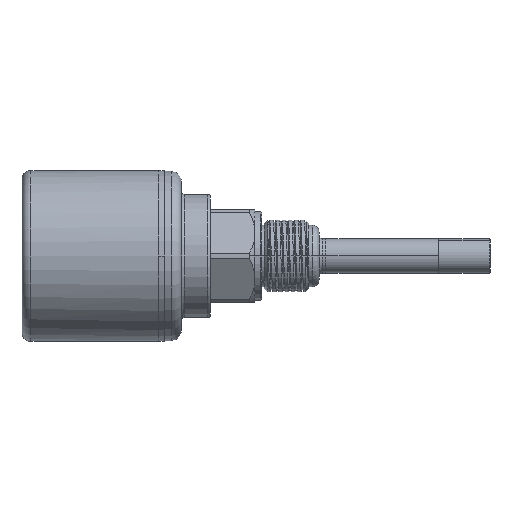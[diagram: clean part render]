
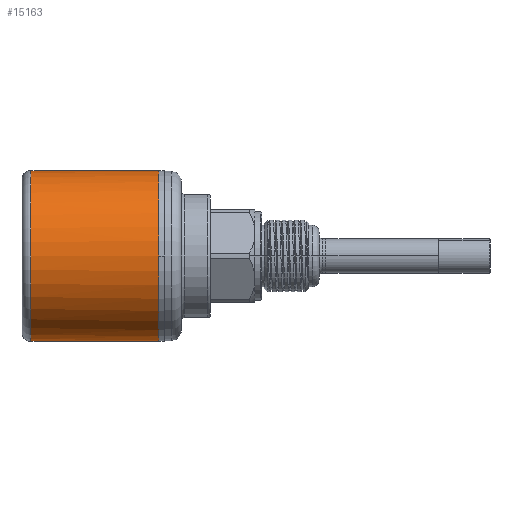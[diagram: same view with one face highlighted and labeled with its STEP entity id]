
A CAD part, left-side view. The second image highlights one B-rep face of the part: STEP entity #15163.
In plain terms, the highlighted cylindrical face has radius 25 mm (diameter 50 mm), a partial arc.
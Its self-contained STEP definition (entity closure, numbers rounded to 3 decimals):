
#451 = LINE ( 'NONE', #10585, #6543 ) ;
#532 = CARTESIAN_POINT ( 'NONE',  ( -1.108, 37.652, 24.982 ) ) ;
#579 = ORIENTED_EDGE ( 'NONE', *, *, #1323, .T. ) ;
#803 = CARTESIAN_POINT ( 'NONE',  ( -1.661, 38., -24.945 ) ) ;
#1323 = EDGE_CURVE ( 'NONE', #11858, #3930, #19573, .T. ) ;
#1630 = CARTESIAN_POINT ( 'NONE',  ( 0., 28., -25. ) ) ;
#2126 = DIRECTION ( 'NONE',  ( 0., 0., 1. ) ) ;
#2214 = CARTESIAN_POINT ( 'NONE',  ( 0., 36.953, 25. ) ) ;
#2394 = CARTESIAN_POINT ( 'NONE',  ( -1.661, 38., -24.945 ) ) ;
#2628 = DIRECTION ( 'NONE',  ( 0., 0., -1. ) ) ;
#2714 = CARTESIAN_POINT ( 'NONE',  ( 0., 36.953, -25. ) ) ;
#2900 = CARTESIAN_POINT ( 'NONE',  ( 0., 38., 0. ) ) ;
#3609 = DIRECTION ( 'NONE',  ( 0., -1., 0. ) ) ;
#3930 = VERTEX_POINT ( 'NONE', #2394 ) ;
#4321 = EDGE_CURVE ( 'NONE', #21162, #11075, #451, .T. ) ;
#5447 = CYLINDRICAL_SURFACE ( 'NONE', #15800, 25. ) ;
#5546 = CARTESIAN_POINT ( 'NONE',  ( 0., 0.5, -25. ) ) ;
#6543 = VECTOR ( 'NONE', #3609, 1000. ) ;
#6779 = CARTESIAN_POINT ( 'NONE',  ( 0., 36.953, -25. ) ) ;
#7345 = DIRECTION ( 'NONE',  ( 0., -1., 0. ) ) ;
#7404 = DIRECTION ( 'NONE',  ( 0., -1., 0. ) ) ;
#8148 = EDGE_CURVE ( 'NONE', #11075, #10023, #18150, .T. ) ;
#8165 = LINE ( 'NONE', #1630, #17235 ) ;
#9105 = ORIENTED_EDGE ( 'NONE', *, *, #17397, .T. ) ;
#9548 = DIRECTION ( 'NONE',  ( 0., 0., 1. ) ) ;
#10023 = VERTEX_POINT ( 'NONE', #5546 ) ;
#10246 = ORIENTED_EDGE ( 'NONE', *, *, #8148, .F. ) ;
#10585 = CARTESIAN_POINT ( 'NONE',  ( 0., 28., 25. ) ) ;
#11075 = VERTEX_POINT ( 'NONE', #19238 ) ;
#11858 = VERTEX_POINT ( 'NONE', #20994 ) ;
#12166 =( BOUNDED_CURVE ( )  B_SPLINE_CURVE ( 3, ( #2214, #19973, #532, #18162 ),
 .UNSPECIFIED., .F., .F. ) 
 B_SPLINE_CURVE_WITH_KNOTS ( ( 4, 4 ),
 ( 1.571, 1.637 ),
 .UNSPECIFIED. ) 
 CURVE ( )  GEOMETRIC_REPRESENTATION_ITEM ( )  RATIONAL_B_SPLINE_CURVE ( ( 1., 1., 1., 1. ) ) 
 REPRESENTATION_ITEM ( '' )  );
#12176 = VERTEX_POINT ( 'NONE', #6779 ) ;
#12781 = ORIENTED_EDGE ( 'NONE', *, *, #16661, .T. ) ;
#13118 = DIRECTION ( 'NONE',  ( 0., -1., 0. ) ) ;
#13623 = ORIENTED_EDGE ( 'NONE', *, *, #15049, .T. ) ;
#13997 = FACE_OUTER_BOUND ( 'NONE', #21062, .T. ) ;
#14461 =( BOUNDED_CURVE ( )  B_SPLINE_CURVE ( 3, ( #803, #19496, #17788, #2714 ),
 .UNSPECIFIED., .F., .T. ) 
 B_SPLINE_CURVE_WITH_KNOTS ( ( 4, 4 ),
 ( 4.646, 4.712 ),
 .UNSPECIFIED. ) 
 CURVE ( )  GEOMETRIC_REPRESENTATION_ITEM ( )  RATIONAL_B_SPLINE_CURVE ( ( 1., 1., 1., 1. ) ) 
 REPRESENTATION_ITEM ( '' )  );
#15049 = EDGE_CURVE ( 'NONE', #12176, #10023, #8165, .T. ) ;
#15163 = ADVANCED_FACE ( 'NONE', ( #13997 ), #5447, .T. ) ;
#15800 = AXIS2_PLACEMENT_3D ( 'NONE', #17704, #7345, #2628 ) ;
#15958 = CARTESIAN_POINT ( 'NONE',  ( 0., 0.5, 0. ) ) ;
#16661 = EDGE_CURVE ( 'NONE', #3930, #12176, #14461, .T. ) ;
#16737 = DIRECTION ( 'NONE',  ( 0., -1., 0. ) ) ;
#17235 = VECTOR ( 'NONE', #13118, 1000. ) ;
#17382 = CARTESIAN_POINT ( 'NONE',  ( 0., 36.953, 25. ) ) ;
#17397 = EDGE_CURVE ( 'NONE', #21162, #11858, #12166, .T. ) ;
#17704 = CARTESIAN_POINT ( 'NONE',  ( 0., 28., 0. ) ) ;
#17788 = CARTESIAN_POINT ( 'NONE',  ( -0.554, 37.302, -25. ) ) ;
#18150 = CIRCLE ( 'NONE', #19606, 25. ) ;
#18162 = CARTESIAN_POINT ( 'NONE',  ( -1.661, 38., 24.945 ) ) ;
#19238 = CARTESIAN_POINT ( 'NONE',  ( 0., 0.5, 25. ) ) ;
#19496 = CARTESIAN_POINT ( 'NONE',  ( -1.108, 37.652, -24.982 ) ) ;
#19573 = CIRCLE ( 'NONE', #22100, 25. ) ;
#19606 = AXIS2_PLACEMENT_3D ( 'NONE', #15958, #7404, #2126 ) ;
#19973 = CARTESIAN_POINT ( 'NONE',  ( -0.554, 37.302, 25. ) ) ;
#20074 = ORIENTED_EDGE ( 'NONE', *, *, #4321, .F. ) ;
#20994 = CARTESIAN_POINT ( 'NONE',  ( -1.661, 38., 24.945 ) ) ;
#21062 = EDGE_LOOP ( 'NONE', ( #20074, #9105, #579, #12781, #13623, #10246 ) ) ;
#21162 = VERTEX_POINT ( 'NONE', #17382 ) ;
#22100 = AXIS2_PLACEMENT_3D ( 'NONE', #2900, #16737, #9548 ) ;
